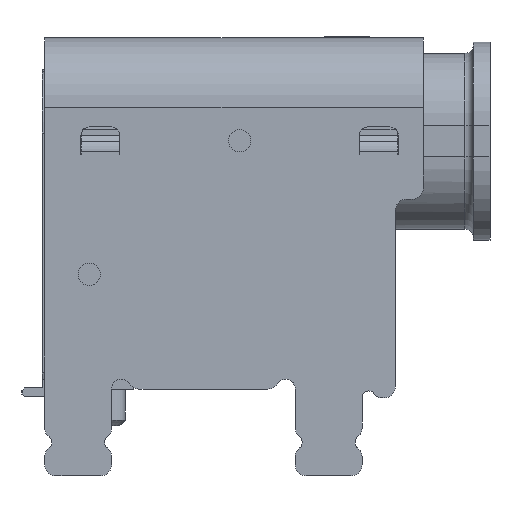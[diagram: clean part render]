
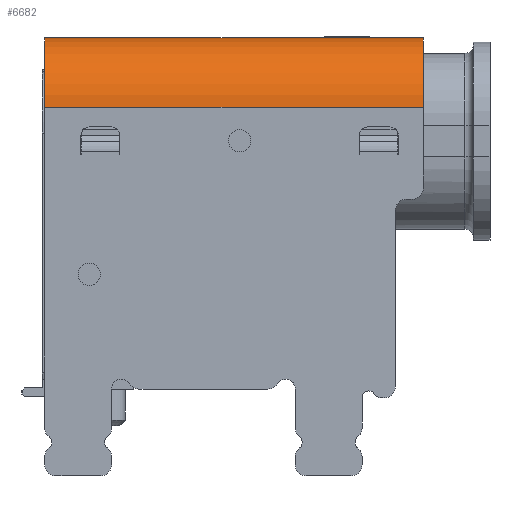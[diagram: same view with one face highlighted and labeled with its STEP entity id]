
A CAD part, front view. The second image highlights one B-rep face of the part: STEP entity #6682.
In plain terms, the highlighted cylindrical face has radius 1.25 mm (diameter 2.5 mm), a partial arc.
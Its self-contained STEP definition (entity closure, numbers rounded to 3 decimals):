
#2327 = CARTESIAN_POINT ( 'NONE',  ( 0., -3.485, 0. ) ) ;
#2928 = DIRECTION ( 'NONE',  ( -1., 0., 0. ) ) ;
#5789 = DIRECTION ( 'NONE',  ( -1., 0., 0. ) ) ;
#6168 = CARTESIAN_POINT ( 'NONE',  ( 7.1, -3.485, -1.25 ) ) ;
#6483 = EDGE_CURVE ( 'NONE', #25852, #10009, #18278, .T. ) ;
#6682 = ADVANCED_FACE ( 'NONE', ( #32513 ), #32344, .T. ) ;
#6777 = ORIENTED_EDGE ( 'NONE', *, *, #9694, .T. ) ;
#6875 = DIRECTION ( 'NONE',  ( -1., 0., 0. ) ) ;
#6987 = VECTOR ( 'NONE', #22054, 1000. ) ;
#8036 = CARTESIAN_POINT ( 'NONE',  ( 0., -3.485, -1.25 ) ) ;
#8419 = DIRECTION ( 'NONE',  ( 0., 1., 0. ) ) ;
#9694 = EDGE_CURVE ( 'NONE', #23867, #30139, #13429, .T. ) ;
#10009 = VERTEX_POINT ( 'NONE', #2327 ) ;
#10538 = AXIS2_PLACEMENT_3D ( 'NONE', #8036, #5789, #8419 ) ;
#12247 = CARTESIAN_POINT ( 'NONE',  ( 6.8, -3.485, 0. ) ) ;
#13429 = CIRCLE ( 'NONE', #32522, 1.25 ) ;
#15657 = AXIS2_PLACEMENT_3D ( 'NONE', #6168, #6875, #28986 ) ;
#15878 = CARTESIAN_POINT ( 'NONE',  ( 7.1, -3.485, 0. ) ) ;
#16086 = CARTESIAN_POINT ( 'NONE',  ( 7.1, -4.735, -1.25 ) ) ;
#16451 = DIRECTION ( 'NONE',  ( -1., 0., 0. ) ) ;
#18278 = CIRCLE ( 'NONE', #10538, 1.25 ) ;
#19924 = CARTESIAN_POINT ( 'NONE',  ( 6.8, -3.485, -1.25 ) ) ;
#21493 = LINE ( 'NONE', #15878, #6987 ) ;
#22054 = DIRECTION ( 'NONE',  ( -1., 0., 0. ) ) ;
#23867 = VERTEX_POINT ( 'NONE', #24657 ) ;
#24657 = CARTESIAN_POINT ( 'NONE',  ( 6.8, -4.735, -1.25 ) ) ;
#24887 = LINE ( 'NONE', #16086, #29247 ) ;
#25852 = VERTEX_POINT ( 'NONE', #36909 ) ;
#26285 = DIRECTION ( 'NONE',  ( 0., 1., 0. ) ) ;
#26814 = ORIENTED_EDGE ( 'NONE', *, *, #29940, .T. ) ;
#27474 = ORIENTED_EDGE ( 'NONE', *, *, #6483, .F. ) ;
#28064 = EDGE_LOOP ( 'NONE', ( #27474, #35825, #6777, #26814 ) ) ;
#28986 = DIRECTION ( 'NONE',  ( 0., -1., 0. ) ) ;
#29247 = VECTOR ( 'NONE', #16451, 1000. ) ;
#29940 = EDGE_CURVE ( 'NONE', #30139, #10009, #21493, .T. ) ;
#30139 = VERTEX_POINT ( 'NONE', #12247 ) ;
#32308 = EDGE_CURVE ( 'NONE', #23867, #25852, #24887, .T. ) ;
#32344 = CYLINDRICAL_SURFACE ( 'NONE', #15657, 1.25 ) ;
#32513 = FACE_OUTER_BOUND ( 'NONE', #28064, .T. ) ;
#32522 = AXIS2_PLACEMENT_3D ( 'NONE', #19924, #2928, #26285 ) ;
#35825 = ORIENTED_EDGE ( 'NONE', *, *, #32308, .F. ) ;
#36909 = CARTESIAN_POINT ( 'NONE',  ( 0., -4.735, -1.25 ) ) ;
